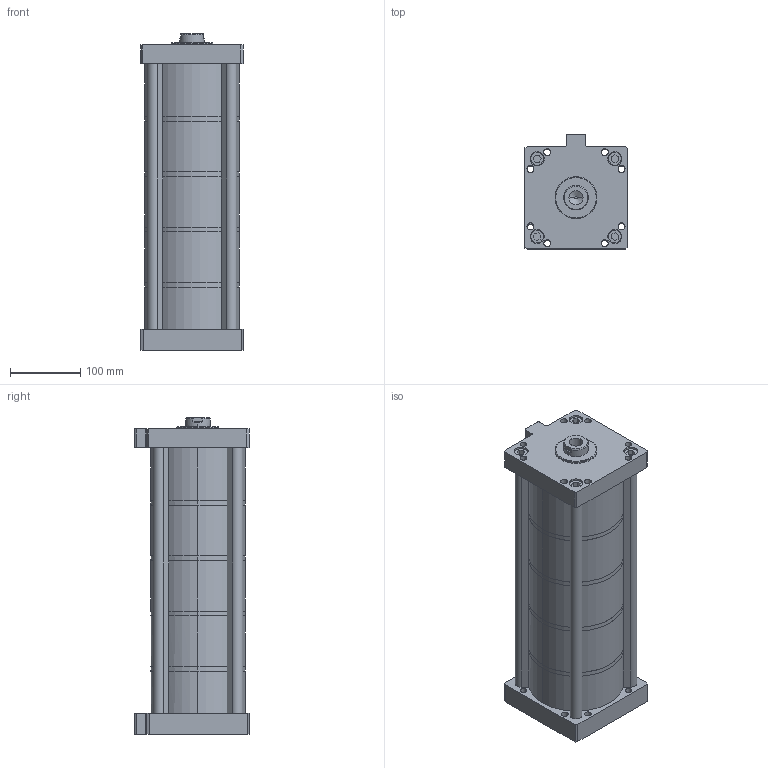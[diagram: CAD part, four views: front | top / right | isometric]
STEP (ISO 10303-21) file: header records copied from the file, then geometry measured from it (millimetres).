
FILE_DESCRIPTION (( 'STEP AP203' ), '1' );
FILE_NAME ('MHK-125-50-F-5.STEP', '2016-03-30T09:15:38', ( 'WIN' ), ( '' ), 'SwSTEP 2.0', 'SolidWorks 2014', '' );
FILE_SCHEMA (( 'CONFIG_CONTROL_DESIGN' ));
Length unit declared in the file: millimetre
Products named in the file (1): MHK-125-50-F-5
Bounding box: 146 x 163 x 452.5 mm (x, y, z)
Volume: 2551514 mm3; surface area: 727783.7 mm2
Topology: 4 solids, 8 shells, 335 faces, 809 edges, 532 vertices
Faces by surface type: plane 168, cylinder 153, cone 12, torus 2
Entity records: 10004 total; most frequent: DIRECTION 1807, CARTESIAN_POINT 1705, ORIENTED_EDGE 1610, EDGE_CURVE 805, AXIS2_PLACEMENT_3D 674, VERTEX_POINT 532, LINE 459, VECTOR 459
